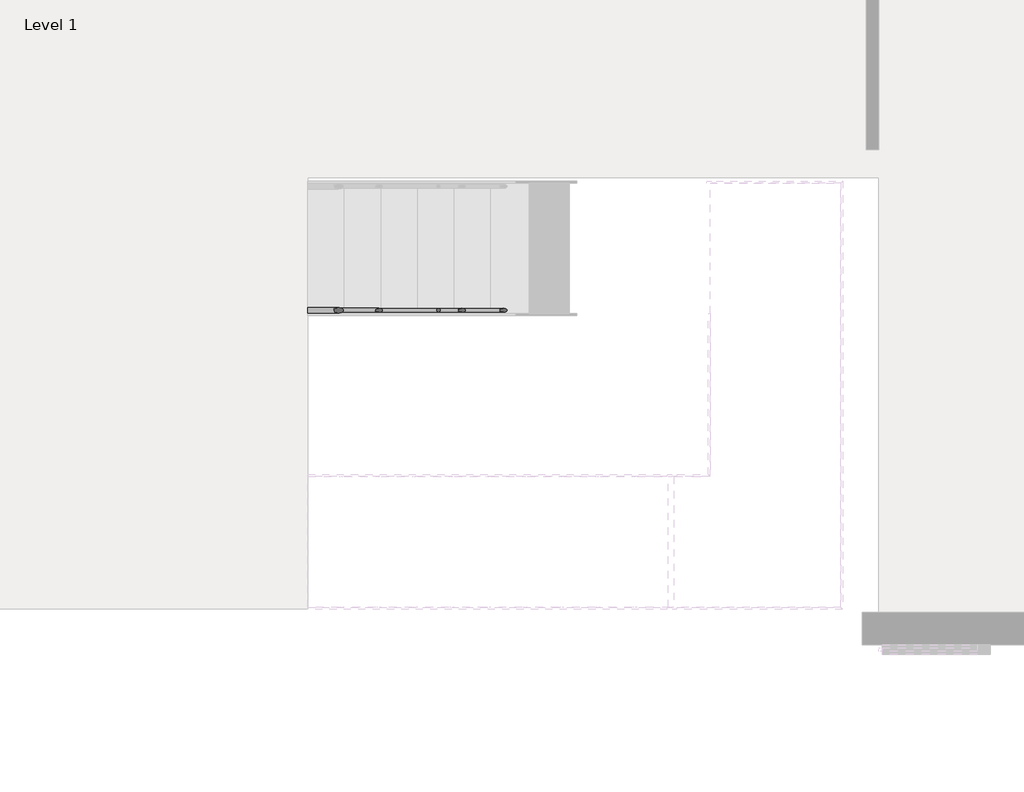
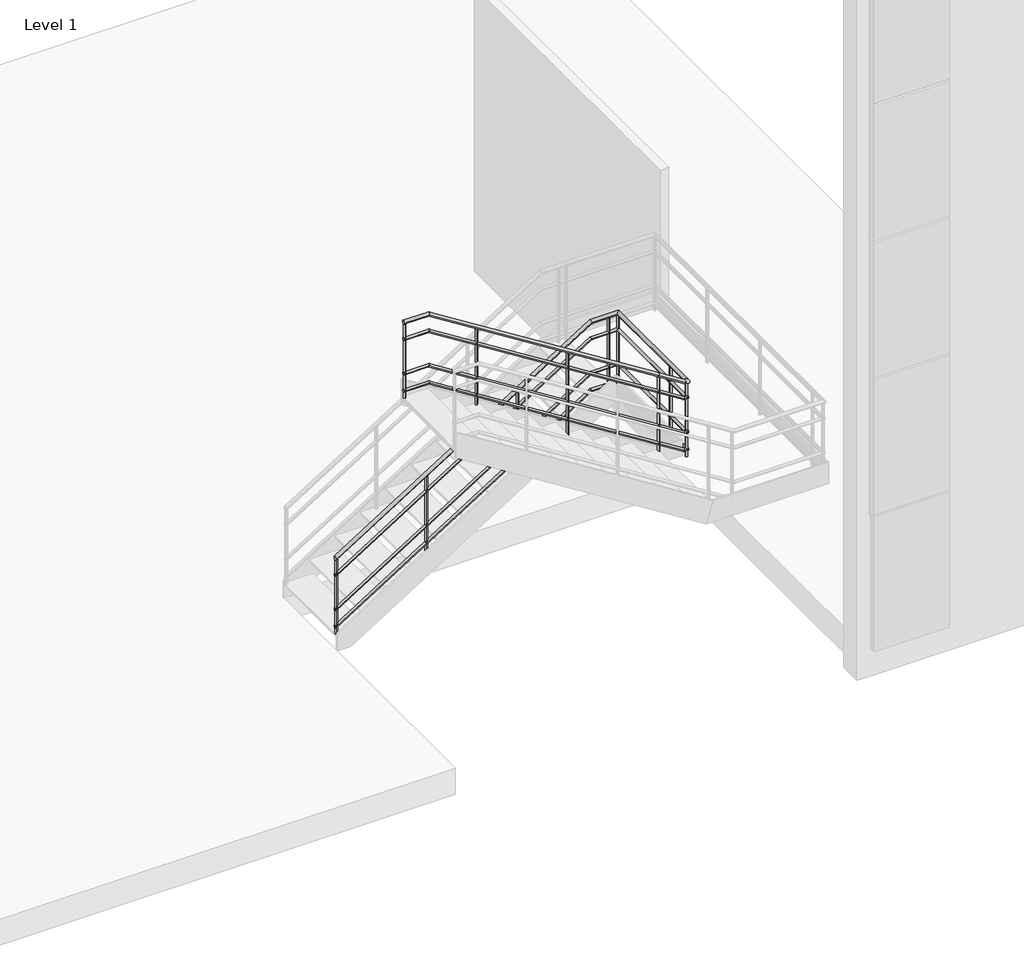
# One storey, part 8 of 10: 1 railing.
"""IFC4 building model written with IfcOpenShell, lengths in millimetres."""

from ifc_helpers import new_model, si_unit, point, frame, frame_2d, origin, place, context, project, spatial, circle_curve, ellipse_curve, trimmed, segment, composite_curve, outline, extrude, element, save
from ifc_brep_helpers import plane_surface, cylinder_surface, advanced_brep

model = new_model("IFC4")

# Units and contexts
model_context = context("Model", 3, world=origin())
ifc_project = project(units=[si_unit("LENGTHUNIT", "METRE", prefix="MILLI")], contexts=[model_context])

# Site, building, storey
site = spatial("IfcSite", under=ifc_project)
building = spatial("IfcBuilding", under=site)
storey = spatial("IfcBuildingStorey", under=building, Name="Level 1", Elevation=3750.0)

# Railing
placement = place(None, origin())
element("IfcRailing", 1, ObjectType="900mm_Pipe 2", at=placement, inside=storey, context=model_context, shape_type="SolidModel", body=[
    advanced_brep(
    [(35285.7942367, -992.7974508, 4802.5603454), (35285.7942367, -952.7974508, 4802.5603454), (38091.5632013, -992.7974508, 6568.0952381), (38091.5632013, -952.7974508, 6568.0952381), (38371.1942367, -992.7974508, 6568.0952381), (38411.1942367, -952.7974508, 6568.0952381), (38371.1942367, -2266.4717893, 6568.0952381), (38411.1942367, -2300.3268706, 6568.0952381)],
    [
        (0, 1, ellipse_curve(frame((35285.7942367, -972.7974508, 4802.5603454), z_axis=(-1.0, 0.0, 0.0), x_axis=(0.0, 0.0, -1.0)), 23.6301308, 20.0)),
        (1, 0, ellipse_curve(frame((35285.7942367, -972.7974508, 4802.5603454), z_axis=(-1.0, 0.0, 0.0), x_axis=(0.0, 0.0, -1.0)), 23.6301308, 20.0)),
        (0, 2),
        (2, 3, ellipse_curve(frame((38091.5632013, -972.7974508, 6568.0952381), z_axis=(-0.9608269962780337, 0.0, -0.2771488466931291), x_axis=(0.2771488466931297, 0.0, -0.9608269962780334)), 20.8154018, 20.0)),
        (3, 1),
        (3, 2, ellipse_curve(frame((38091.5632013, -972.7974508, 6568.0952381), z_axis=(-0.9608269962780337, 0.0, -0.2771488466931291), x_axis=(0.2771488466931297, 0.0, -0.9608269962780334)), 20.8154018, 20.0)),
        (2, 4),
        (4, 5, ellipse_curve(frame((38391.1942367, -972.7974508, 6568.0952381), z_axis=(-0.7071067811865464, 0.7071067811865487, 0.0), x_axis=(-0.7071067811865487, -0.7071067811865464, 0.0)), 28.2842712, 20.0)),
        (5, 3),
        (5, 4, ellipse_curve(frame((38391.1942367, -972.7974508, 6568.0952381), z_axis=(-0.7071067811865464, 0.7071067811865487, 0.0), x_axis=(-0.7071067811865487, -0.7071067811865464, 0.0)), 28.2842712, 20.0)),
        (6, 7, ellipse_curve(frame((38391.1942367, -2283.3993299, 6568.0952381), z_axis=(-0.5984789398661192, -0.7071067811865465, 0.3765938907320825), x_axis=(-0.5984789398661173, 0.7071067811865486, 0.3765938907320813)), 28.2842712, 20.0)),
        (7, 6, ellipse_curve(frame((38391.1942367, -2283.3993299, 6568.0952381), z_axis=(-0.5984789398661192, -0.7071067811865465, 0.3765938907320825), x_axis=(-0.5984789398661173, 0.7071067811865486, 0.3765938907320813)), 28.2842712, 20.0)),
        (4, 6),
        (7, 5),
    ],
    [
        plane_surface(frame((35285.7942367, -972.7974508, 4826.1904762), z_axis=(-1.0, 0.0, 0.0), x_axis=(0.0, 1.0, 0.0))),
        cylinder_surface(frame((35296.4459204, -972.7974508, 4809.2629355), z_axis=(-0.8463770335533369, 0.0, -0.5325841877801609), x_axis=(0.0, 1.0, 0.0)), 20.0),
        cylinder_surface(frame((38085.7942367, -972.7974508, 6568.0952381), z_axis=(-1.0, 0.0, 0.0), x_axis=(0.0, 1.0, 0.0)), 20.0),
        plane_surface(frame((38391.1942367, -2272.7476462, 6588.0952381), z_axis=(-0.5984789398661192, -0.7071067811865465, 0.3765938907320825), x_axis=(0.801138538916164, -0.5282338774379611, 0.28132901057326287))),
        cylinder_surface(frame((38391.1942367, -972.7974508, 6568.0952381), z_axis=(0.0, 1.0, 0.0), x_axis=(1.0, 0.0, 0.0)), 20.0),
    ],
    [
        (0, [[1, 2]]),
        (1, [[-1, 3, 4, 5]]),
        (1, [[-2, -5, 6, -3]]),
        (2, [[-4, 7, 8, 9]]),
        (2, [[-6, -9, 10, -7]]),
        (3, [[11, 12]]),
        (4, [[-8, 13, -12, 14]]),
        (4, [[-10, -14, -11, -13]]),
    ],
),
    advanced_brep(
    [(38075.1425529, -2292.7476462, 6747.3581736), (38075.1425529, -2252.7476462, 6747.3581736), (35560.0252721, -2252.7476462, 8330.0), (35560.0252721, -2292.7476462, 8330.0), (35285.7942367, -2252.7476462, 8330.0), (35285.7942367, -2292.7476462, 8330.0), (38338.2150122, -2252.7476462, 6581.8193812), (38372.0700936, -2292.7476462, 6560.5160137)],
    [
        (0, 1, circle_curve(frame((38075.1425529, -2272.7476462, 6747.3581736), z_axis=(-0.8463770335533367, 0.0, 0.5325841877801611), x_axis=(0.0, -1.0, 0.0)), 20.0)),
        (1, 2),
        (2, 3, ellipse_curve(frame((35560.0252721, -2272.7476462, 8330.0), z_axis=(0.9608269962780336, 0.0, -0.2771488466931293), x_axis=(-0.2771488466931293, 0.0, -0.9608269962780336)), 20.8154018, 20.0)),
        (3, 0),
        (1, 0, circle_curve(frame((38075.1425529, -2272.7476462, 6747.3581736), z_axis=(-0.8463770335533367, 0.0, 0.5325841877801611), x_axis=(0.0, -1.0, 0.0)), 20.0)),
        (3, 2, ellipse_curve(frame((35560.0252721, -2272.7476462, 8330.0), z_axis=(0.9608269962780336, 0.0, -0.2771488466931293), x_axis=(-0.2771488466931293, 0.0, -0.9608269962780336)), 20.8154018, 20.0)),
        (4, 5, circle_curve(frame((35285.7942367, -2272.7476462, 8330.0), z_axis=(-1.0, 0.0, 0.0), x_axis=(0.0, -1.0, 0.0)), 20.0)),
        (5, 4, circle_curve(frame((35285.7942367, -2272.7476462, 8330.0), z_axis=(-1.0, 0.0, 0.0), x_axis=(0.0, -1.0, 0.0)), 20.0)),
        (2, 4),
        (5, 3),
        (6, 7, ellipse_curve(frame((38355.1425529, -2272.7476462, 6571.1676974), z_axis=(0.5984789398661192, 0.7071067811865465, -0.3765938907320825), x_axis=(0.5984789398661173, -0.7071067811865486, -0.37659389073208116)), 28.2842712, 20.0)),
        (7, 6, ellipse_curve(frame((38355.1425529, -2272.7476462, 6571.1676974), z_axis=(0.5984789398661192, 0.7071067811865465, -0.3765938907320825), x_axis=(0.5984789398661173, -0.7071067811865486, -0.37659389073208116)), 28.2842712, 20.0)),
        (6, 1),
        (0, 7),
    ],
    [
        cylinder_surface(frame((38075.1425529, -2272.7476462, 6747.3581736), z_axis=(0.8463770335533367, 0.0, -0.5325841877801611), x_axis=(0.0, -1.0, 0.0)), 20.0),
        plane_surface(frame((35285.7942367, -2272.7476462, 8350.0), z_axis=(-1.0, 0.0, 0.0), x_axis=(0.0, -1.0, 0.0))),
        cylinder_surface(frame((35565.7942367, -2272.7476462, 8330.0), z_axis=(1.0, 0.0, 0.0), x_axis=(0.0, -1.0, 0.0)), 20.0),
        plane_surface(frame((38365.7942367, -2272.7476462, 6588.0952381), z_axis=(0.5984789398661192, 0.7071067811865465, -0.3765938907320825), x_axis=(0.801138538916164, -0.5282338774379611, 0.28132901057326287))),
        cylinder_surface(frame((38355.1425529, -2272.7476462, 6571.1676974), z_axis=(0.8463770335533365, 0.0, -0.5325841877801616), x_axis=(0.0, -1.0, 0.0)), 20.0),
    ],
    [
        (0, [[1, 2, 3, 4]]),
        (0, [[5, -4, 6, -2]]),
        (1, [[7, 8]]),
        (2, [[-3, 9, -8, 10]]),
        (2, [[-6, -10, -7, -9]]),
        (3, [[11, 12]]),
        (4, [[-11, 13, -1, 14]]),
        (4, [[-12, -14, -5, -13]]),
    ],
),
    advanced_brep(
    [(35285.7942367, -957.7974508, 4608.4678781), (35285.7942367, -987.7974508, 4608.4678781), (38090.1209601, -957.7974508, 6373.0952381), (38090.1209601, -987.7974508, 6373.0952381), (38376.1942367, -957.7974508, 6373.0952381), (38376.1942367, -987.7974508, 6373.0952381)],
    [
        (0, 1, ellipse_curve(frame((35285.7942367, -972.7974508, 4608.4678781), z_axis=(-1.0, 0.0, 0.0), x_axis=(0.0, 0.0, -1.0)), 17.7225981, 15.0)),
        (1, 0, ellipse_curve(frame((35285.7942367, -972.7974508, 4608.4678781), z_axis=(-1.0, 0.0, 0.0), x_axis=(0.0, 0.0, -1.0)), 17.7225981, 15.0)),
        (0, 2),
        (2, 3, ellipse_curve(frame((38090.1209601, -972.7974508, 6373.0952381), z_axis=(-0.9608269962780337, 0.0, -0.2771488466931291), x_axis=(0.2771488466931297, 0.0, -0.9608269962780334)), 15.6115514, 15.0)),
        (3, 1),
        (3, 2, ellipse_curve(frame((38090.1209601, -972.7974508, 6373.0952381), z_axis=(-0.9608269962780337, 0.0, -0.2771488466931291), x_axis=(0.2771488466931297, 0.0, -0.9608269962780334)), 15.6115514, 15.0)),
        (4, 5, circle_curve(frame((38376.1942367, -972.7974508, 6373.0952381), z_axis=(1.0, 0.0, 0.0), x_axis=(0.0, -1.0, 0.0)), 15.0)),
        (5, 4, circle_curve(frame((38376.1942367, -972.7974508, 6373.0952381), z_axis=(1.0, 0.0, 0.0), x_axis=(0.0, -1.0, 0.0)), 15.0)),
        (2, 4),
        (5, 3),
    ],
    [
        plane_surface(frame((35285.7942367, -972.7974508, 4626.1904762), z_axis=(-1.0, 0.0, 0.0), x_axis=(0.0, 1.0, 0.0))),
        cylinder_surface(frame((35293.7829995, -972.7974508, 4613.4948207), z_axis=(-0.8463770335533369, 0.0, -0.5325841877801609), x_axis=(0.0, -1.0, 0.0)), 15.0),
        plane_surface(frame((38376.1942367, -972.7974508, 6388.0952381), z_axis=(1.0, 0.0, 0.0), x_axis=(0.0, 1.0, 0.0))),
        cylinder_surface(frame((38085.7942367, -972.7974508, 6373.0952381), z_axis=(-1.0, 0.0, 0.0), x_axis=(0.0, -1.0, 0.0)), 15.0),
    ],
    [
        (0, [[1, 2]]),
        (1, [[-1, 3, 4, 5]]),
        (1, [[-2, -5, 6, -3]]),
        (2, [[7, 8]]),
        (3, [[-4, 9, -8, 10]]),
        (3, [[-6, -10, -7, -9]]),
    ],
),
    advanced_brep(
    [(38406.1942367, -957.7974508, 6373.0952381), (38376.1942367, -957.7974508, 6373.0952381), (38406.1942367, -2257.7476462, 6373.0952381), (38376.1942367, -2257.7476462, 6373.0952381)],
    [
        (0, 1, circle_curve(frame((38391.1942367, -957.7974508, 6373.0952381), z_axis=(0.0, 1.0, 0.0), x_axis=(-1.0, 0.0, 0.0)), 15.0)),
        (1, 0, circle_curve(frame((38391.1942367, -957.7974508, 6373.0952381), z_axis=(0.0, 1.0, 0.0), x_axis=(-1.0, 0.0, 0.0)), 15.0)),
        (2, 3, circle_curve(frame((38391.1942367, -2257.7476462, 6373.0952381), z_axis=(0.0, -1.0, 0.0), x_axis=(-1.0, 0.0, 0.0)), 15.0)),
        (3, 2, circle_curve(frame((38391.1942367, -2257.7476462, 6373.0952381), z_axis=(0.0, -1.0, 0.0), x_axis=(-1.0, 0.0, 0.0)), 15.0)),
        (0, 2),
        (3, 1),
    ],
    [
        plane_surface(frame((38391.1942367, -957.7974508, 6388.0952381), z_axis=(0.0, 1.0, 0.0), x_axis=(0.0, 0.0, -1.0))),
        plane_surface(frame((38391.1942367, -2257.7476462, 6388.0952381), z_axis=(0.0, -1.0, 0.0), x_axis=(0.0, 0.0, -1.0))),
        cylinder_surface(frame((38391.1942367, -957.7974508, 6373.0952381), z_axis=(0.0, 1.0, 0.0), x_axis=(-1.0, 0.0, 0.0)), 15.0),
    ],
    [
        (0, [[1, 2]]),
        (1, [[3, 4]]),
        (2, [[-1, 5, -4, 6]]),
        (2, [[-2, -6, -3, -5]]),
    ],
),
    advanced_brep(
    [(38406.1942367, -2287.7476462, 6373.0952381), (38406.1942367, -2257.7476462, 6373.0952381), (38361.4675132, -2287.7476462, 6373.0952381), (38361.4675132, -2257.7476462, 6373.0952381), (38085.7942367, -2287.7476462, 6546.5631162), (38085.7942367, -2257.7476462, 6546.5631162)],
    [
        (0, 1, circle_curve(frame((38406.1942367, -2272.7476462, 6373.0952381), z_axis=(1.0, 0.0, 0.0), x_axis=(0.0, 1.0, 0.0)), 15.0)),
        (1, 0, circle_curve(frame((38406.1942367, -2272.7476462, 6373.0952381), z_axis=(1.0, 0.0, 0.0), x_axis=(0.0, 1.0, 0.0)), 15.0)),
        (0, 2),
        (2, 3, ellipse_curve(frame((38361.4675132, -2272.7476462, 6373.0952381), z_axis=(0.9608269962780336, 0.0, -0.2771488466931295), x_axis=(0.27714884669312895, 0.0, 0.9608269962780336)), 15.6115514, 15.0)),
        (3, 1),
        (3, 2, ellipse_curve(frame((38361.4675132, -2272.7476462, 6373.0952381), z_axis=(0.9608269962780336, 0.0, -0.2771488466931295), x_axis=(0.27714884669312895, 0.0, 0.9608269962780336)), 15.6115514, 15.0)),
        (4, 5, ellipse_curve(frame((38085.7942367, -2272.7476462, 6546.5631162), z_axis=(-1.0, 0.0, 0.0), x_axis=(0.0, 0.0, -1.0)), 17.7225981, 15.0)),
        (5, 4, ellipse_curve(frame((38085.7942367, -2272.7476462, 6546.5631162), z_axis=(-1.0, 0.0, 0.0), x_axis=(0.0, 0.0, -1.0)), 17.7225981, 15.0)),
        (2, 4),
        (5, 3),
    ],
    [
        plane_surface(frame((38406.1942367, -2272.7476462, 6388.0952381), z_axis=(1.0, 0.0, 0.0), x_axis=(0.0, -1.0, 0.0))),
        cylinder_surface(frame((38406.1942367, -2272.7476462, 6373.0952381), z_axis=(1.0, 0.0, 0.0), x_axis=(0.0, 1.0, 0.0)), 15.0),
        plane_surface(frame((38085.7942367, -2272.7476462, 6564.2857143), z_axis=(-1.0, 0.0, 0.0), x_axis=(0.0, -1.0, 0.0))),
        cylinder_surface(frame((38357.8054739, -2272.7476462, 6375.3995826), z_axis=(0.8463770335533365, 0.0, -0.5325841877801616), x_axis=(0.0, 1.0, 0.0)), 15.0),
    ],
    [
        (0, [[1, 2]]),
        (1, [[-1, 3, 4, 5]]),
        (1, [[-2, -5, 6, -3]]),
        (2, [[7, 8]]),
        (3, [[-4, 9, -8, 10]]),
        (3, [[-6, -10, -7, -9]]),
    ],
),
    advanced_brep(
    [(38085.7942367, -2287.7476462, 6546.5631162), (38085.7942367, -2257.7476462, 6546.5631162), (35561.4675132, -2287.7476462, 8135.0), (35561.4675132, -2257.7476462, 8135.0), (35285.7942367, -2287.7476462, 8135.0), (35285.7942367, -2257.7476462, 8135.0)],
    [
        (0, 1, ellipse_curve(frame((38085.7942367, -2272.7476462, 6546.5631162), z_axis=(1.0, 0.0, 0.0), x_axis=(0.0, 0.0, -1.0)), 17.7225981, 15.0)),
        (1, 0, ellipse_curve(frame((38085.7942367, -2272.7476462, 6546.5631162), z_axis=(1.0, 0.0, 0.0), x_axis=(0.0, 0.0, -1.0)), 17.7225981, 15.0)),
        (0, 2),
        (2, 3, ellipse_curve(frame((35561.4675132, -2272.7476462, 8135.0), z_axis=(0.9608269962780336, 0.0, -0.2771488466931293), x_axis=(-0.2771488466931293, 0.0, -0.9608269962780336)), 15.6115514, 15.0)),
        (3, 1),
        (3, 2, ellipse_curve(frame((35561.4675132, -2272.7476462, 8135.0), z_axis=(0.9608269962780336, 0.0, -0.2771488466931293), x_axis=(-0.2771488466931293, 0.0, -0.9608269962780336)), 15.6115514, 15.0)),
        (4, 5, circle_curve(frame((35285.7942367, -2272.7476462, 8135.0), z_axis=(-1.0, 0.0, 0.0), x_axis=(0.0, 1.0, 0.0)), 15.0)),
        (5, 4, circle_curve(frame((35285.7942367, -2272.7476462, 8135.0), z_axis=(-1.0, 0.0, 0.0), x_axis=(0.0, 1.0, 0.0)), 15.0)),
        (2, 4),
        (5, 3),
    ],
    [
        plane_surface(frame((38085.7942367, -2272.7476462, 6564.2857143), z_axis=(1.0, 0.0, 0.0), x_axis=(0.0, -1.0, 0.0))),
        cylinder_surface(frame((38077.8054739, -2272.7476462, 6551.5900588), z_axis=(0.8463770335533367, 0.0, -0.5325841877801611), x_axis=(0.0, 1.0, 0.0)), 15.0),
        plane_surface(frame((35285.7942367, -2272.7476462, 8150.0), z_axis=(-1.0, 0.0, 0.0), x_axis=(0.0, -1.0, 0.0))),
        cylinder_surface(frame((35565.7942367, -2272.7476462, 8135.0), z_axis=(1.0, 0.0, 0.0), x_axis=(0.0, 1.0, 0.0)), 15.0),
    ],
    [
        (0, [[1, 2]]),
        (1, [[-1, 3, 4, 5]]),
        (1, [[-2, -5, 6, -3]]),
        (2, [[7, 8]]),
        (3, [[-4, 9, -8, 10]]),
        (3, [[-6, -10, -7, -9]]),
    ],
),
    advanced_brep(
    [(35285.7942367, -957.7974508, 4208.4678781), (35285.7942367, -987.7974508, 4208.4678781), (38090.1209601, -957.7974508, 5973.0952381), (38090.1209601, -987.7974508, 5973.0952381), (38376.1942367, -957.7974508, 5973.0952381), (38376.1942367, -987.7974508, 5973.0952381)],
    [
        (0, 1, ellipse_curve(frame((35285.7942367, -972.7974508, 4208.4678781), z_axis=(-1.0, 0.0, 0.0), x_axis=(0.0, 0.0, -1.0)), 17.7225981, 15.0)),
        (1, 0, ellipse_curve(frame((35285.7942367, -972.7974508, 4208.4678781), z_axis=(-1.0, 0.0, 0.0), x_axis=(0.0, 0.0, -1.0)), 17.7225981, 15.0)),
        (0, 2),
        (2, 3, ellipse_curve(frame((38090.1209601, -972.7974508, 5973.0952381), z_axis=(-0.9608269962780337, 0.0, -0.2771488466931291), x_axis=(0.2771488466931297, 0.0, -0.9608269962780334)), 15.6115514, 15.0)),
        (3, 1),
        (3, 2, ellipse_curve(frame((38090.1209601, -972.7974508, 5973.0952381), z_axis=(-0.9608269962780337, 0.0, -0.2771488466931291), x_axis=(0.2771488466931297, 0.0, -0.9608269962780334)), 15.6115514, 15.0)),
        (4, 5, circle_curve(frame((38376.1942367, -972.7974508, 5973.0952381), z_axis=(1.0, 0.0, 0.0), x_axis=(0.0, -1.0, 0.0)), 15.0)),
        (5, 4, circle_curve(frame((38376.1942367, -972.7974508, 5973.0952381), z_axis=(1.0, 0.0, 0.0), x_axis=(0.0, -1.0, 0.0)), 15.0)),
        (2, 4),
        (5, 3),
    ],
    [
        plane_surface(frame((35285.7942367, -972.7974508, 4226.1904762), z_axis=(-1.0, 0.0, 0.0), x_axis=(0.0, 1.0, 0.0))),
        cylinder_surface(frame((35293.7829995, -972.7974508, 4213.4948207), z_axis=(-0.8463770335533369, 0.0, -0.5325841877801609), x_axis=(0.0, -1.0, 0.0)), 15.0),
        plane_surface(frame((38376.1942367, -972.7974508, 5988.0952381), z_axis=(1.0, 0.0, 0.0), x_axis=(0.0, 1.0, 0.0))),
        cylinder_surface(frame((38085.7942367, -972.7974508, 5973.0952381), z_axis=(-1.0, 0.0, 0.0), x_axis=(0.0, -1.0, 0.0)), 15.0),
    ],
    [
        (0, [[1, 2]]),
        (1, [[-1, 3, 4, 5]]),
        (1, [[-2, -5, 6, -3]]),
        (2, [[7, 8]]),
        (3, [[-4, 9, -8, 10]]),
        (3, [[-6, -10, -7, -9]]),
    ],
),
    advanced_brep(
    [(38406.1942367, -957.7974508, 5973.0952381), (38376.1942367, -957.7974508, 5973.0952381), (38406.1942367, -2257.7476462, 5973.0952381), (38376.1942367, -2257.7476462, 5973.0952381)],
    [
        (0, 1, circle_curve(frame((38391.1942367, -957.7974508, 5973.0952381), z_axis=(0.0, 1.0, 0.0), x_axis=(-1.0, 0.0, 0.0)), 15.0)),
        (1, 0, circle_curve(frame((38391.1942367, -957.7974508, 5973.0952381), z_axis=(0.0, 1.0, 0.0), x_axis=(-1.0, 0.0, 0.0)), 15.0)),
        (2, 3, circle_curve(frame((38391.1942367, -2257.7476462, 5973.0952381), z_axis=(0.0, -1.0, 0.0), x_axis=(-1.0, 0.0, 0.0)), 15.0)),
        (3, 2, circle_curve(frame((38391.1942367, -2257.7476462, 5973.0952381), z_axis=(0.0, -1.0, 0.0), x_axis=(-1.0, 0.0, 0.0)), 15.0)),
        (0, 2),
        (3, 1),
    ],
    [
        plane_surface(frame((38391.1942367, -957.7974508, 5988.0952381), z_axis=(0.0, 1.0, 0.0), x_axis=(0.0, 0.0, -1.0))),
        plane_surface(frame((38391.1942367, -2257.7476462, 5988.0952381), z_axis=(0.0, -1.0, 0.0), x_axis=(0.0, 0.0, -1.0))),
        cylinder_surface(frame((38391.1942367, -957.7974508, 5973.0952381), z_axis=(0.0, 1.0, 0.0), x_axis=(-1.0, 0.0, 0.0)), 15.0),
    ],
    [
        (0, [[1, 2]]),
        (1, [[3, 4]]),
        (2, [[-1, 5, -4, 6]]),
        (2, [[-2, -6, -3, -5]]),
    ],
),
    advanced_brep(
    [(38406.1942367, -2287.7476462, 5973.0952381), (38406.1942367, -2257.7476462, 5973.0952381), (38361.4675132, -2287.7476462, 5973.0952381), (38361.4675132, -2257.7476462, 5973.0952381), (38085.7942367, -2287.7476462, 6146.5631162), (38085.7942367, -2257.7476462, 6146.5631162)],
    [
        (0, 1, circle_curve(frame((38406.1942367, -2272.7476462, 5973.0952381), z_axis=(1.0, 0.0, 0.0), x_axis=(0.0, 1.0, 0.0)), 15.0)),
        (1, 0, circle_curve(frame((38406.1942367, -2272.7476462, 5973.0952381), z_axis=(1.0, 0.0, 0.0), x_axis=(0.0, 1.0, 0.0)), 15.0)),
        (0, 2),
        (2, 3, ellipse_curve(frame((38361.4675132, -2272.7476462, 5973.0952381), z_axis=(0.9608269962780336, 0.0, -0.2771488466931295), x_axis=(0.27714884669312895, 0.0, 0.9608269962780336)), 15.6115514, 15.0)),
        (3, 1),
        (3, 2, ellipse_curve(frame((38361.4675132, -2272.7476462, 5973.0952381), z_axis=(0.9608269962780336, 0.0, -0.2771488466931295), x_axis=(0.27714884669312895, 0.0, 0.9608269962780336)), 15.6115514, 15.0)),
        (4, 5, ellipse_curve(frame((38085.7942367, -2272.7476462, 6146.5631162), z_axis=(-1.0, 0.0, 0.0), x_axis=(0.0, 0.0, -1.0)), 17.7225981, 15.0)),
        (5, 4, ellipse_curve(frame((38085.7942367, -2272.7476462, 6146.5631162), z_axis=(-1.0, 0.0, 0.0), x_axis=(0.0, 0.0, -1.0)), 17.7225981, 15.0)),
        (2, 4),
        (5, 3),
    ],
    [
        plane_surface(frame((38406.1942367, -2272.7476462, 5988.0952381), z_axis=(1.0, 0.0, 0.0), x_axis=(0.0, -1.0, 0.0))),
        cylinder_surface(frame((38406.1942367, -2272.7476462, 5973.0952381), z_axis=(1.0, 0.0, 0.0), x_axis=(0.0, 1.0, 0.0)), 15.0),
        plane_surface(frame((38085.7942367, -2272.7476462, 6164.2857143), z_axis=(-1.0, 0.0, 0.0), x_axis=(0.0, -1.0, 0.0))),
        cylinder_surface(frame((38357.8054739, -2272.7476462, 5975.3995826), z_axis=(0.8463770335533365, 0.0, -0.5325841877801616), x_axis=(0.0, 1.0, 0.0)), 15.0),
    ],
    [
        (0, [[1, 2]]),
        (1, [[-1, 3, 4, 5]]),
        (1, [[-2, -5, 6, -3]]),
        (2, [[7, 8]]),
        (3, [[-4, 9, -8, 10]]),
        (3, [[-6, -10, -7, -9]]),
    ],
),
    advanced_brep(
    [(38085.7942367, -2287.7476462, 6146.5631162), (38085.7942367, -2257.7476462, 6146.5631162), (35561.4675132, -2287.7476462, 7735.0), (35561.4675132, -2257.7476462, 7735.0), (35285.7942367, -2287.7476462, 7735.0), (35285.7942367, -2257.7476462, 7735.0)],
    [
        (0, 1, ellipse_curve(frame((38085.7942367, -2272.7476462, 6146.5631162), z_axis=(1.0, 0.0, 0.0), x_axis=(0.0, 0.0, -1.0)), 17.7225981, 15.0)),
        (1, 0, ellipse_curve(frame((38085.7942367, -2272.7476462, 6146.5631162), z_axis=(1.0, 0.0, 0.0), x_axis=(0.0, 0.0, -1.0)), 17.7225981, 15.0)),
        (0, 2),
        (2, 3, ellipse_curve(frame((35561.4675132, -2272.7476462, 7735.0), z_axis=(0.9608269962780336, 0.0, -0.2771488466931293), x_axis=(-0.2771488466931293, 0.0, -0.9608269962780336)), 15.6115514, 15.0)),
        (3, 1),
        (3, 2, ellipse_curve(frame((35561.4675132, -2272.7476462, 7735.0), z_axis=(0.9608269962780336, 0.0, -0.2771488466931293), x_axis=(-0.2771488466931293, 0.0, -0.9608269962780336)), 15.6115514, 15.0)),
        (4, 5, circle_curve(frame((35285.7942367, -2272.7476462, 7735.0), z_axis=(-1.0, 0.0, 0.0), x_axis=(0.0, 1.0, 0.0)), 15.0)),
        (5, 4, circle_curve(frame((35285.7942367, -2272.7476462, 7735.0), z_axis=(-1.0, 0.0, 0.0), x_axis=(0.0, 1.0, 0.0)), 15.0)),
        (2, 4),
        (5, 3),
    ],
    [
        plane_surface(frame((38085.7942367, -2272.7476462, 6164.2857143), z_axis=(1.0, 0.0, 0.0), x_axis=(0.0, -1.0, 0.0))),
        cylinder_surface(frame((38077.8054739, -2272.7476462, 6151.5900588), z_axis=(0.8463770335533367, 0.0, -0.5325841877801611), x_axis=(0.0, 1.0, 0.0)), 15.0),
        plane_surface(frame((35285.7942367, -2272.7476462, 7750.0), z_axis=(-1.0, 0.0, 0.0), x_axis=(0.0, -1.0, 0.0))),
        cylinder_surface(frame((35565.7942367, -2272.7476462, 7735.0), z_axis=(1.0, 0.0, 0.0), x_axis=(0.0, 1.0, 0.0)), 15.0),
    ],
    [
        (0, [[1, 2]]),
        (1, [[-1, 3, 4, 5]]),
        (1, [[-2, -5, 6, -3]]),
        (2, [[7, 8]]),
        (3, [[-4, 9, -8, 10]]),
        (3, [[-6, -10, -7, -9]]),
    ],
),
    advanced_brep(
    [(35285.7942367, -957.7974508, 4008.4678781), (35285.7942367, -987.7974508, 4008.4678781), (38090.1209601, -957.7974508, 5773.0952381), (38090.1209601, -987.7974508, 5773.0952381), (38376.1942367, -957.7974508, 5773.0952381), (38376.1942367, -987.7974508, 5773.0952381)],
    [
        (0, 1, ellipse_curve(frame((35285.7942367, -972.7974508, 4008.4678781), z_axis=(-1.0, 0.0, 0.0), x_axis=(0.0, 0.0, -1.0)), 17.7225981, 15.0)),
        (1, 0, ellipse_curve(frame((35285.7942367, -972.7974508, 4008.4678781), z_axis=(-1.0, 0.0, 0.0), x_axis=(0.0, 0.0, -1.0)), 17.7225981, 15.0)),
        (0, 2),
        (2, 3, ellipse_curve(frame((38090.1209601, -972.7974508, 5773.0952381), z_axis=(-0.9608269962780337, 0.0, -0.2771488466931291), x_axis=(0.2771488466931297, 0.0, -0.9608269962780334)), 15.6115514, 15.0)),
        (3, 1),
        (3, 2, ellipse_curve(frame((38090.1209601, -972.7974508, 5773.0952381), z_axis=(-0.9608269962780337, 0.0, -0.2771488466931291), x_axis=(0.2771488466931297, 0.0, -0.9608269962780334)), 15.6115514, 15.0)),
        (4, 5, circle_curve(frame((38376.1942367, -972.7974508, 5773.0952381), z_axis=(1.0, 0.0, 0.0), x_axis=(0.0, -1.0, 0.0)), 15.0)),
        (5, 4, circle_curve(frame((38376.1942367, -972.7974508, 5773.0952381), z_axis=(1.0, 0.0, 0.0), x_axis=(0.0, -1.0, 0.0)), 15.0)),
        (2, 4),
        (5, 3),
    ],
    [
        plane_surface(frame((35285.7942367, -972.7974508, 4026.1904762), z_axis=(-1.0, 0.0, 0.0), x_axis=(0.0, 1.0, 0.0))),
        cylinder_surface(frame((35293.7829995, -972.7974508, 4013.4948207), z_axis=(-0.8463770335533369, 0.0, -0.5325841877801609), x_axis=(0.0, -1.0, 0.0)), 15.0),
        plane_surface(frame((38376.1942367, -972.7974508, 5788.0952381), z_axis=(1.0, 0.0, 0.0), x_axis=(0.0, 1.0, 0.0))),
        cylinder_surface(frame((38085.7942367, -972.7974508, 5773.0952381), z_axis=(-1.0, 0.0, 0.0), x_axis=(0.0, -1.0, 0.0)), 15.0),
    ],
    [
        (0, [[1, 2]]),
        (1, [[-1, 3, 4, 5]]),
        (1, [[-2, -5, 6, -3]]),
        (2, [[7, 8]]),
        (3, [[-4, 9, -8, 10]]),
        (3, [[-6, -10, -7, -9]]),
    ],
),
    advanced_brep(
    [(38406.1942367, -957.7974508, 5773.0952381), (38376.1942367, -957.7974508, 5773.0952381), (38406.1942367, -2257.7476462, 5773.0952381), (38376.1942367, -2257.7476462, 5773.0952381)],
    [
        (0, 1, circle_curve(frame((38391.1942367, -957.7974508, 5773.0952381), z_axis=(0.0, 1.0, 0.0), x_axis=(-1.0, 0.0, 0.0)), 15.0)),
        (1, 0, circle_curve(frame((38391.1942367, -957.7974508, 5773.0952381), z_axis=(0.0, 1.0, 0.0), x_axis=(-1.0, 0.0, 0.0)), 15.0)),
        (2, 3, circle_curve(frame((38391.1942367, -2257.7476462, 5773.0952381), z_axis=(0.0, -1.0, 0.0), x_axis=(-1.0, 0.0, 0.0)), 15.0)),
        (3, 2, circle_curve(frame((38391.1942367, -2257.7476462, 5773.0952381), z_axis=(0.0, -1.0, 0.0), x_axis=(-1.0, 0.0, 0.0)), 15.0)),
        (0, 2),
        (3, 1),
    ],
    [
        plane_surface(frame((38391.1942367, -957.7974508, 5788.0952381), z_axis=(0.0, 1.0, 0.0), x_axis=(0.0, 0.0, -1.0))),
        plane_surface(frame((38391.1942367, -2257.7476462, 5788.0952381), z_axis=(0.0, -1.0, 0.0), x_axis=(0.0, 0.0, -1.0))),
        cylinder_surface(frame((38391.1942367, -957.7974508, 5773.0952381), z_axis=(0.0, 1.0, 0.0), x_axis=(-1.0, 0.0, 0.0)), 15.0),
    ],
    [
        (0, [[1, 2]]),
        (1, [[3, 4]]),
        (2, [[-1, 5, -4, 6]]),
        (2, [[-2, -6, -3, -5]]),
    ],
),
    advanced_brep(
    [(38406.1942367, -2287.7476462, 5773.0952381), (38406.1942367, -2257.7476462, 5773.0952381), (38361.4675132, -2287.7476462, 5773.0952381), (38361.4675132, -2257.7476462, 5773.0952381), (38085.7942367, -2287.7476462, 5946.5631162), (38085.7942367, -2257.7476462, 5946.5631162)],
    [
        (0, 1, circle_curve(frame((38406.1942367, -2272.7476462, 5773.0952381), z_axis=(1.0, 0.0, 0.0), x_axis=(0.0, 1.0, 0.0)), 15.0)),
        (1, 0, circle_curve(frame((38406.1942367, -2272.7476462, 5773.0952381), z_axis=(1.0, 0.0, 0.0), x_axis=(0.0, 1.0, 0.0)), 15.0)),
        (0, 2),
        (2, 3, ellipse_curve(frame((38361.4675132, -2272.7476462, 5773.0952381), z_axis=(0.9608269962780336, 0.0, -0.2771488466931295), x_axis=(0.27714884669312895, 0.0, 0.9608269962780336)), 15.6115514, 15.0)),
        (3, 1),
        (3, 2, ellipse_curve(frame((38361.4675132, -2272.7476462, 5773.0952381), z_axis=(0.9608269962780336, 0.0, -0.2771488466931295), x_axis=(0.27714884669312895, 0.0, 0.9608269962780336)), 15.6115514, 15.0)),
        (4, 5, ellipse_curve(frame((38085.7942367, -2272.7476462, 5946.5631162), z_axis=(-1.0, 0.0, 0.0), x_axis=(0.0, 0.0, -1.0)), 17.7225981, 15.0)),
        (5, 4, ellipse_curve(frame((38085.7942367, -2272.7476462, 5946.5631162), z_axis=(-1.0, 0.0, 0.0), x_axis=(0.0, 0.0, -1.0)), 17.7225981, 15.0)),
        (2, 4),
        (5, 3),
    ],
    [
        plane_surface(frame((38406.1942367, -2272.7476462, 5788.0952381), z_axis=(1.0, 0.0, 0.0), x_axis=(0.0, -1.0, 0.0))),
        cylinder_surface(frame((38406.1942367, -2272.7476462, 5773.0952381), z_axis=(1.0, 0.0, 0.0), x_axis=(0.0, 1.0, 0.0)), 15.0),
        plane_surface(frame((38085.7942367, -2272.7476462, 5964.2857143), z_axis=(-1.0, 0.0, 0.0), x_axis=(0.0, -1.0, 0.0))),
        cylinder_surface(frame((38357.8054739, -2272.7476462, 5775.3995826), z_axis=(0.8463770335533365, 0.0, -0.5325841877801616), x_axis=(0.0, 1.0, 0.0)), 15.0),
    ],
    [
        (0, [[1, 2]]),
        (1, [[-1, 3, 4, 5]]),
        (1, [[-2, -5, 6, -3]]),
        (2, [[7, 8]]),
        (3, [[-4, 9, -8, 10]]),
        (3, [[-6, -10, -7, -9]]),
    ],
),
    advanced_brep(
    [(38085.7942367, -2287.7476462, 5946.5631162), (38085.7942367, -2257.7476462, 5946.5631162), (35561.4675132, -2287.7476462, 7535.0), (35561.4675132, -2257.7476462, 7535.0), (35285.7942367, -2287.7476462, 7535.0), (35285.7942367, -2257.7476462, 7535.0)],
    [
        (0, 1, ellipse_curve(frame((38085.7942367, -2272.7476462, 5946.5631162), z_axis=(1.0, 0.0, 0.0), x_axis=(0.0, 0.0, -1.0)), 17.7225981, 15.0)),
        (1, 0, ellipse_curve(frame((38085.7942367, -2272.7476462, 5946.5631162), z_axis=(1.0, 0.0, 0.0), x_axis=(0.0, 0.0, -1.0)), 17.7225981, 15.0)),
        (0, 2),
        (2, 3, ellipse_curve(frame((35561.4675132, -2272.7476462, 7535.0), z_axis=(0.9608269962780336, 0.0, -0.2771488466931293), x_axis=(-0.2771488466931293, 0.0, -0.9608269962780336)), 15.6115514, 15.0)),
        (3, 1),
        (3, 2, ellipse_curve(frame((35561.4675132, -2272.7476462, 7535.0), z_axis=(0.9608269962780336, 0.0, -0.2771488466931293), x_axis=(-0.2771488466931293, 0.0, -0.9608269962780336)), 15.6115514, 15.0)),
        (4, 5, circle_curve(frame((35285.7942367, -2272.7476462, 7535.0), z_axis=(-1.0, 0.0, 0.0), x_axis=(0.0, 1.0, 0.0)), 15.0)),
        (5, 4, circle_curve(frame((35285.7942367, -2272.7476462, 7535.0), z_axis=(-1.0, 0.0, 0.0), x_axis=(0.0, 1.0, 0.0)), 15.0)),
        (2, 4),
        (5, 3),
    ],
    [
        plane_surface(frame((38085.7942367, -2272.7476462, 5964.2857143), z_axis=(1.0, 0.0, 0.0), x_axis=(0.0, -1.0, 0.0))),
        cylinder_surface(frame((38077.8054739, -2272.7476462, 5951.5900588), z_axis=(0.8463770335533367, 0.0, -0.5325841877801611), x_axis=(0.0, 1.0, 0.0)), 15.0),
        plane_surface(frame((35285.7942367, -2272.7476462, 7550.0), z_axis=(-1.0, 0.0, 0.0), x_axis=(0.0, -1.0, 0.0))),
        cylinder_surface(frame((35565.7942367, -2272.7476462, 7535.0), z_axis=(1.0, 0.0, 0.0), x_axis=(0.0, 1.0, 0.0)), 15.0),
    ],
    [
        (0, [[1, 2]]),
        (1, [[-1, 3, 4, 5]]),
        (1, [[-2, -5, 6, -3]]),
        (2, [[7, 8]]),
        (3, [[-4, 9, -8, 10]]),
        (3, [[-6, -10, -7, -9]]),
    ],
),
    advanced_brep(
    [(36085.7942367, -2260.2476462, 7975.5288541), (36085.7942367, -2260.2476462, 7097.6190476), (36085.7942367, -2285.2476462, 7097.6190476), (36085.7942367, -2285.2476462, 7975.5288541)],
    [
        (0, 1),
        (1, 2, circle_curve(frame((36085.7942367, -2272.7476462, 7097.6190476), z_axis=(0.0, 0.0, 1.0), x_axis=(0.0, -1.0, 0.0)), 12.5)),
        (2, 3),
        (3, 0, ellipse_curve(frame((36085.7942367, -2272.7476462, 7975.5288541), z_axis=(-0.5325841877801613, 0.0, -0.8463770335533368), x_axis=(-0.846377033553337, 0.0, 0.5325841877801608)), 14.7688317, 12.5)),
        (0, 3, ellipse_curve(frame((36085.7942367, -2272.7476462, 7975.5288541), z_axis=(-0.5325841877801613, 0.0, -0.8463770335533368), x_axis=(-0.846377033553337, 0.0, 0.5325841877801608)), 14.7688317, 12.5)),
        (2, 1, circle_curve(frame((36085.7942367, -2272.7476462, 7097.6190476), z_axis=(0.0, 0.0, 1.0), x_axis=(0.0, -1.0, 0.0)), 12.5)),
    ],
    [
        cylinder_surface(frame((36085.7942367, -2272.7476462, 6997.6190476), z_axis=(0.0, 0.0, 1.0), x_axis=(0.0, -1.0, 0.0)), 12.5),
        plane_surface(frame((36060.7942367, -2297.7476462, 7991.2601466), z_axis=(0.5325841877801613, 0.0, 0.8463770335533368), x_axis=(0.0, 1.0, 0.0))),
        plane_surface(frame((36110.7942367, -2297.7476462, 7097.6190476), z_axis=(0.0, 0.0, -1.0), x_axis=(0.0, 1.0, 0.0))),
    ],
    [
        (0, [[1, 2, 3, 4]]),
        (0, [[-1, 5, -3, 6]]),
        (1, [[-4, -5]]),
        (2, [[-2, -6]]),
    ],
),
    advanced_brep(
    [(37085.7942367, -2260.2476462, 7346.2771534), (37085.7942367, -2260.2476462, 6392.8571429), (37085.7942367, -2285.2476462, 6392.8571429), (37085.7942367, -2285.2476462, 7346.2771534)],
    [
        (0, 1),
        (1, 2, circle_curve(frame((37085.7942367, -2272.7476462, 6392.8571429), z_axis=(0.0, 0.0, 1.0), x_axis=(0.0, -1.0, 0.0)), 12.5)),
        (2, 3),
        (3, 0, ellipse_curve(frame((37085.7942367, -2272.7476462, 7346.2771534), z_axis=(-0.5325841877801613, 0.0, -0.8463770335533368), x_axis=(-0.846377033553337, 0.0, 0.5325841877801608)), 14.7688317, 12.5)),
        (0, 3, ellipse_curve(frame((37085.7942367, -2272.7476462, 7346.2771534), z_axis=(-0.5325841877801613, 0.0, -0.8463770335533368), x_axis=(-0.846377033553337, 0.0, 0.5325841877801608)), 14.7688317, 12.5)),
        (2, 1, circle_curve(frame((37085.7942367, -2272.7476462, 6392.8571429), z_axis=(0.0, 0.0, 1.0), x_axis=(0.0, -1.0, 0.0)), 12.5)),
    ],
    [
        cylinder_surface(frame((37085.7942367, -2272.7476462, 6292.8571429), z_axis=(0.0, 0.0, 1.0), x_axis=(0.0, -1.0, 0.0)), 12.5),
        plane_surface(frame((37060.7942367, -2297.7476462, 7362.0084459), z_axis=(0.5325841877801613, 0.0, 0.8463770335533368), x_axis=(0.0, 1.0, 0.0))),
        plane_surface(frame((37110.7942367, -2297.7476462, 6392.8571429), z_axis=(0.0, 0.0, -1.0), x_axis=(0.0, 1.0, 0.0))),
    ],
    [
        (0, [[1, 2, 3, 4]]),
        (0, [[-1, 5, -3, 6]]),
        (1, [[-4, -5]]),
        (2, [[-2, -6]]),
    ],
),
    extrude(outline(composite_curve([segment(trimmed(circle_curve(frame_2d((38391.1942367, -1972.7974508)), 12.5), [point((38403.6942367, -1972.7974508))], [point((38378.6942367, -1972.7974508))], False, "CARTESIAN"), True, "CONTINUOUS"), segment(trimmed(circle_curve(frame_2d((38391.1942367, -1972.7974508)), 12.5), [point((38378.6942367, -1972.7974508))], [point((38403.6942367, -1972.7974508))], False, "CARTESIAN"), True, "CONTINUOUS")], self_intersect=False)), frame((0.0, 0.0, 5688.0952381), z_axis=(0.0, 0.0, 1.0), x_axis=(1.0, 0.0, 0.0)), (0.0, 0.0, 1.0), 860.0),
    extrude(outline(composite_curve([segment(trimmed(circle_curve(frame_2d((38285.7942367, -972.7974508)), 12.5), [point((38285.7942367, -960.2974508))], [point((38285.7942367, -985.2974508))], False, "CARTESIAN"), True, "CONTINUOUS"), segment(trimmed(circle_curve(frame_2d((38285.7942367, -972.7974508)), 12.5), [point((38285.7942367, -985.2974508))], [point((38285.7942367, -960.2974508))], False, "CARTESIAN"), True, "CONTINUOUS")], self_intersect=False)), frame((0.0, 0.0, 5688.0952381), z_axis=(0.0, 0.0, 1.0), x_axis=(1.0, 0.0, 0.0)), (0.0, 0.0, 1.0), 860.0),
    advanced_brep(
    [(37285.7942367, -985.2974508, 6037.433616), (37285.7942367, -985.2974508, 5159.5238095), (37285.7942367, -960.2974508, 5159.5238095), (37285.7942367, -960.2974508, 6037.433616)],
    [
        (0, 1),
        (1, 2, circle_curve(frame((37285.7942367, -972.7974508, 5159.5238095), z_axis=(0.0, 0.0, 1.0), x_axis=(0.0, 1.0, 0.0)), 12.5)),
        (2, 3),
        (3, 0, ellipse_curve(frame((37285.7942367, -972.7974508, 6037.433616), z_axis=(0.5325841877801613, 0.0, -0.8463770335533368), x_axis=(0.846377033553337, 0.0, 0.5325841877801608)), 14.7688317, 12.5)),
        (0, 3, ellipse_curve(frame((37285.7942367, -972.7974508, 6037.433616), z_axis=(0.5325841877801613, 0.0, -0.8463770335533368), x_axis=(0.846377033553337, 0.0, 0.5325841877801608)), 14.7688317, 12.5)),
        (2, 1, circle_curve(frame((37285.7942367, -972.7974508, 5159.5238095), z_axis=(0.0, 0.0, 1.0), x_axis=(0.0, 1.0, 0.0)), 12.5)),
    ],
    [
        cylinder_surface(frame((37285.7942367, -972.7974508, 5059.5238095), z_axis=(0.0, 0.0, 1.0), x_axis=(0.0, 1.0, 0.0)), 12.5),
        plane_surface(frame((37310.7942367, -947.7974508, 6053.1649085), z_axis=(-0.5325841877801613, 0.0, 0.8463770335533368), x_axis=(0.0, -1.0, 0.0))),
        plane_surface(frame((37260.7942367, -947.7974508, 5159.5238095), z_axis=(0.0, 0.0, -1.0), x_axis=(0.0, -1.0, 0.0))),
    ],
    [
        (0, [[1, 2, 3, 4]]),
        (0, [[-1, 5, -3, 6]]),
        (1, [[-4, -5]]),
        (2, [[-2, -6]]),
    ],
),
    advanced_brep(
    [(36285.7942367, -985.2974508, 5408.1819153), (36285.7942367, -985.2974508, 4454.7619048), (36285.7942367, -960.2974508, 4454.7619048), (36285.7942367, -960.2974508, 5408.1819153)],
    [
        (0, 1),
        (1, 2, circle_curve(frame((36285.7942367, -972.7974508, 4454.7619048), z_axis=(0.0, 0.0, 1.0), x_axis=(0.0, 1.0, 0.0)), 12.5)),
        (2, 3),
        (3, 0, ellipse_curve(frame((36285.7942367, -972.7974508, 5408.1819153), z_axis=(0.5325841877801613, 0.0, -0.8463770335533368), x_axis=(0.846377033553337, 0.0, 0.5325841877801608)), 14.7688317, 12.5)),
        (0, 3, ellipse_curve(frame((36285.7942367, -972.7974508, 5408.1819153), z_axis=(0.5325841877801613, 0.0, -0.8463770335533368), x_axis=(0.846377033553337, 0.0, 0.5325841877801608)), 14.7688317, 12.5)),
        (2, 1, circle_curve(frame((36285.7942367, -972.7974508, 4454.7619048), z_axis=(0.0, 0.0, 1.0), x_axis=(0.0, 1.0, 0.0)), 12.5)),
    ],
    [
        cylinder_surface(frame((36285.7942367, -972.7974508, 4354.7619048), z_axis=(0.0, 0.0, 1.0), x_axis=(0.0, 1.0, 0.0)), 12.5),
        plane_surface(frame((36310.7942367, -947.7974508, 5423.9132078), z_axis=(-0.5325841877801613, 0.0, 0.8463770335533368), x_axis=(0.0, -1.0, 0.0))),
        plane_surface(frame((36260.7942367, -947.7974508, 4454.7619048), z_axis=(0.0, 0.0, -1.0), x_axis=(0.0, -1.0, 0.0))),
    ],
    [
        (0, [[1, 2, 3, 4]]),
        (0, [[-1, 5, -3, 6]]),
        (1, [[-4, -5]]),
        (2, [[-2, -6]]),
    ],
),
    advanced_brep(
    [(38085.7942367, -2260.2476462, 6717.0254527), (38085.7942367, -2260.2476462, 5688.0952381), (38085.7942367, -2285.2476462, 5688.0952381), (38085.7942367, -2285.2476462, 6717.0254527)],
    [
        (0, 1),
        (1, 2, circle_curve(frame((38085.7942367, -2272.7476462, 5688.0952381), z_axis=(0.0, 0.0, 1.0), x_axis=(0.0, -1.0, 0.0)), 12.5)),
        (2, 3),
        (3, 0, ellipse_curve(frame((38085.7942367, -2272.7476462, 6717.0254527), z_axis=(-0.5325841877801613, 0.0, -0.8463770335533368), x_axis=(-0.846377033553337, 0.0, 0.5325841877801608)), 14.7688317, 12.5)),
        (0, 3, ellipse_curve(frame((38085.7942367, -2272.7476462, 6717.0254527), z_axis=(-0.5325841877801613, 0.0, -0.8463770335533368), x_axis=(-0.846377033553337, 0.0, 0.5325841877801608)), 14.7688317, 12.5)),
        (2, 1, circle_curve(frame((38085.7942367, -2272.7476462, 5688.0952381), z_axis=(0.0, 0.0, 1.0), x_axis=(0.0, -1.0, 0.0)), 12.5)),
    ],
    [
        cylinder_surface(frame((38085.7942367, -2272.7476462, 5588.0952381), z_axis=(0.0, 0.0, 1.0), x_axis=(0.0, -1.0, 0.0)), 12.5),
        plane_surface(frame((38060.7942367, -2297.7476462, 6732.7567452), z_axis=(0.5325841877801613, 0.0, 0.8463770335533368), x_axis=(0.0, 1.0, 0.0))),
        plane_surface(frame((38110.7942367, -2297.7476462, 5688.0952381), z_axis=(0.0, 0.0, -1.0), x_axis=(0.0, 1.0, 0.0))),
    ],
    [
        (0, [[1, 2, 3, 4]]),
        (0, [[-1, 5, -3, 6]]),
        (1, [[-4, -5]]),
        (2, [[-2, -6]]),
    ],
),
    extrude(outline(composite_curve([segment(trimmed(circle_curve(frame_2d((38391.1942367, -2272.7476462)), 12.5), [point((38403.6942367, -2272.7476462))], [point((38378.6942367, -2272.7476462))], False, "CARTESIAN"), True, "CONTINUOUS"), segment(trimmed(circle_curve(frame_2d((38391.1942367, -2272.7476462)), 12.5), [point((38378.6942367, -2272.7476462))], [point((38403.6942367, -2272.7476462))], False, "CARTESIAN"), True, "CONTINUOUS")], self_intersect=False)), frame((0.0, 0.0, 5688.0952381), z_axis=(0.0, 0.0, 1.0), x_axis=(1.0, 0.0, 0.0)), (0.0, 0.0, 1.0), 860.0),
    extrude(outline(composite_curve([segment(trimmed(circle_curve(frame_2d((38391.1942367, -972.7974508)), 12.5), [point((38391.1942367, -960.2974508))], [point((38391.1942367, -985.2974508))], False, "CARTESIAN"), True, "CONTINUOUS"), segment(trimmed(circle_curve(frame_2d((38391.1942367, -972.7974508)), 12.5), [point((38391.1942367, -985.2974508))], [point((38391.1942367, -960.2974508))], False, "CARTESIAN"), True, "CONTINUOUS")], self_intersect=False)), frame((0.0, 0.0, 5688.0952381), z_axis=(0.0, 0.0, 1.0), x_axis=(1.0, 0.0, 0.0)), (0.0, 0.0, 1.0), 860.0),
    extrude(outline(composite_curve([segment(trimmed(circle_curve(frame_2d((35298.2942367, -2272.7476462)), 12.5), [point((35298.2942367, -2285.2476462))], [point((35298.2942367, -2260.2476462))], False, "CARTESIAN"), True, "CONTINUOUS"), segment(trimmed(circle_curve(frame_2d((35298.2942367, -2272.7476462)), 12.5), [point((35298.2942367, -2260.2476462))], [point((35298.2942367, -2285.2476462))], False, "CARTESIAN"), True, "CONTINUOUS")], self_intersect=False)), frame((0.0, 0.0, 7450.0), z_axis=(0.0, 0.0, 1.0), x_axis=(1.0, 0.0, 0.0)), (0.0, 0.0, 1.0), 860.0),
    advanced_brep(
    [(35298.2942367, -985.2974508, 4786.7958609), (35298.2942367, -985.2974508, 3926.1904762), (35298.2942367, -960.2974508, 3926.1904762), (35298.2942367, -960.2974508, 4786.7958609)],
    [
        (0, 1),
        (1, 2, circle_curve(frame((35298.2942367, -972.7974508, 3926.1904762), z_axis=(0.0, 0.0, 1.0), x_axis=(0.0, 1.0, 0.0)), 12.5)),
        (2, 3),
        (3, 0, ellipse_curve(frame((35298.2942367, -972.7974508, 4786.7958609), z_axis=(0.5325841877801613, 0.0, -0.8463770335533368), x_axis=(0.846377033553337, 0.0, 0.5325841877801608)), 14.7688317, 12.5)),
        (0, 3, ellipse_curve(frame((35298.2942367, -972.7974508, 4786.7958609), z_axis=(0.5325841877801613, 0.0, -0.8463770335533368), x_axis=(0.846377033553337, 0.0, 0.5325841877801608)), 14.7688317, 12.5)),
        (2, 1, circle_curve(frame((35298.2942367, -972.7974508, 3926.1904762), z_axis=(0.0, 0.0, 1.0), x_axis=(0.0, 1.0, 0.0)), 12.5)),
    ],
    [
        cylinder_surface(frame((35298.2942367, -972.7974508, 3826.1904762), z_axis=(0.0, 0.0, 1.0), x_axis=(0.0, 1.0, 0.0)), 12.5),
        plane_surface(frame((35323.2942367, -947.7974508, 4802.5271534), z_axis=(-0.5325841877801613, 0.0, 0.8463770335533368), x_axis=(0.0, -1.0, 0.0))),
        plane_surface(frame((35273.2942367, -947.7974508, 3926.1904762), z_axis=(0.0, 0.0, -1.0), x_axis=(0.0, -1.0, 0.0))),
    ],
    [
        (0, [[1, 2, 3, 4]]),
        (0, [[-1, 5, -3, 6]]),
        (1, [[-4, -5]]),
        (2, [[-2, -6]]),
    ],
),
])

save(model, "model.ifc")
